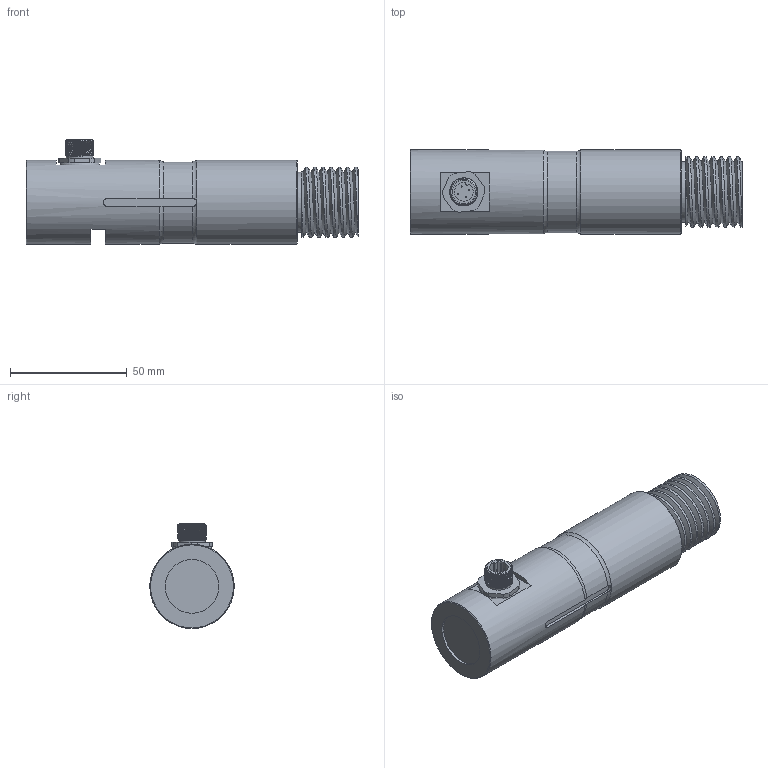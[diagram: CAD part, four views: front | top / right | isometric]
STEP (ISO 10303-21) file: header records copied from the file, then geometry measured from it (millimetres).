
FILE_DESCRIPTION(/* description */ ('Alibre Inc.'),/* implementation_level */ '2;1');
FILE_NAME(/* name */ 'export0',/* time_stamp */ '2016-06-08T13:36:36+02:00',/* author */ (''),/* organization */ (''),/* preprocessor_version */ 'ST-DEVELOPER v14',/* originating_system */ 'Alibre',/* authorisation */ '');
FILE_SCHEMA (('CONFIG_CONTROL_DESIGN'));
Length unit declared in the file: centimetre
Products named in the file (7): ID_1; ID_2; ID_3; ID_4
Bounding box: 142 x 36 x 44.89 mm (x, y, z)
Volume: 131926.9 mm3; surface area: 24495.7 mm2
Topology: 9 solids, 9 shells, 494 faces, 1207 edges, 789 vertices
Faces by surface type: plane 384, cylinder 74, bspline 25, cone 6, torus 5
Full cylindrical faces by diameter (mm): 0.5 x8, 8 x2, 10 x4, 11.5 x1, 13 x1, 14.376 x1, 23 x1, 25.7 x1, 36 x2
Entity records: 25425 total; most frequent: CARTESIAN_POINT 14206, ORIENTED_EDGE 2338, DIRECTION 1605, EDGE_CURVE 1164, VECTOR 899, LINE 899, VERTEX_POINT 776, FACE_BOUND 589
